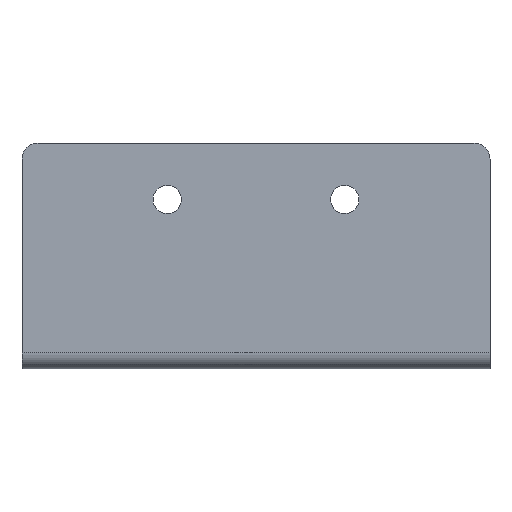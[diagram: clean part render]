
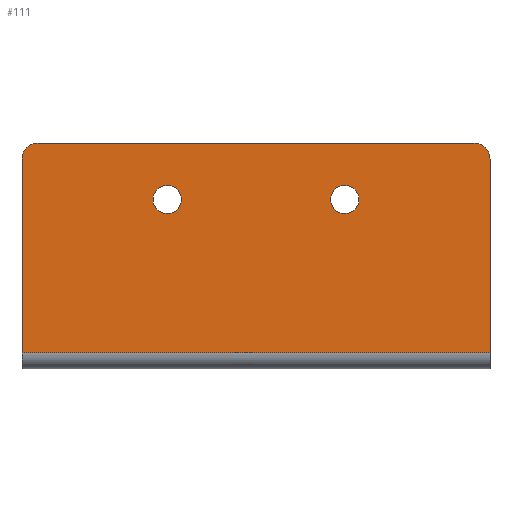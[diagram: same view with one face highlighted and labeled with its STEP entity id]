
A CAD part, left-side view. The second image highlights one B-rep face of the part: STEP entity #111.
In plain terms, the highlighted planar face has unit normal (-1, 0, 0).
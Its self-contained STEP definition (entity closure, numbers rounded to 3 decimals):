
#111=ADVANCED_FACE('',(#229,#230,#231),#232,.F.);
#229=FACE_OUTER_BOUND('',#352,.T.);
#230=FACE_BOUND('',#353,.T.);
#231=FACE_BOUND('',#354,.T.);
#232=PLANE('',#355);
#352=EDGE_LOOP('',(#616,#617,#618,#619,#620,#621,#622,#623));
#353=EDGE_LOOP('',(#624,#625));
#354=EDGE_LOOP('',(#626,#627));
#355=AXIS2_PLACEMENT_3D('',#628,#629,#630);
#616=ORIENTED_EDGE('',*,*,#853,.F.);
#617=ORIENTED_EDGE('',*,*,#825,.F.);
#618=ORIENTED_EDGE('',*,*,#749,.F.);
#619=ORIENTED_EDGE('',*,*,#854,.F.);
#620=ORIENTED_EDGE('',*,*,#855,.F.);
#621=ORIENTED_EDGE('',*,*,#856,.F.);
#622=ORIENTED_EDGE('',*,*,#754,.F.);
#623=ORIENTED_EDGE('',*,*,#857,.F.);
#624=ORIENTED_EDGE('',*,*,#776,.T.);
#625=ORIENTED_EDGE('',*,*,#830,.T.);
#626=ORIENTED_EDGE('',*,*,#821,.T.);
#627=ORIENTED_EDGE('',*,*,#812,.T.);
#628=CARTESIAN_POINT('',(73.943,145.661,29.0));
#629=DIRECTION('',(1.0,0.,0.));
#630=DIRECTION('',(0.,-1.0,0.));
#749=EDGE_CURVE('',#893,#895,#896,.T.);
#754=EDGE_CURVE('',#900,#903,#904,.T.);
#776=EDGE_CURVE('',#942,#940,#943,.T.);
#812=EDGE_CURVE('',#997,#999,#1001,.T.);
#821=EDGE_CURVE('',#999,#997,#1012,.T.);
#825=EDGE_CURVE('',#895,#1017,#1018,.T.);
#830=EDGE_CURVE('',#940,#942,#1024,.T.);
#853=EDGE_CURVE('',#1017,#1055,#1056,.T.);
#854=EDGE_CURVE('',#1057,#893,#1058,.T.);
#855=EDGE_CURVE('',#1059,#1057,#1060,.T.);
#856=EDGE_CURVE('',#903,#1059,#1061,.T.);
#857=EDGE_CURVE('',#1055,#900,#1062,.T.);
#893=VERTEX_POINT('',#1103);
#895=VERTEX_POINT('',#1105);
#896=LINE('',#1106,#1107);
#900=VERTEX_POINT('',#1111);
#903=VERTEX_POINT('',#1115);
#904=LINE('',#1116,#1117);
#940=VERTEX_POINT('',#1160);
#942=VERTEX_POINT('',#1163);
#943=CIRCLE('',#1164,1.75);
#997=VERTEX_POINT('',#1233);
#999=VERTEX_POINT('',#1236);
#1001=CIRCLE('',#1239,1.75);
#1012=CIRCLE('',#1253,1.75);
#1017=VERTEX_POINT('',#1259);
#1018=LINE('',#1260,#1261);
#1024=CIRCLE('',#1269,1.75);
#1055=VERTEX_POINT('',#1309);
#1056=CIRCLE('',#1310,2.);
#1057=VERTEX_POINT('',#1311);
#1058=LINE('',#1312,#1313);
#1059=VERTEX_POINT('',#1314);
#1060=CIRCLE('',#1315,2.);
#1061=CIRCLE('',#1316,2.);
#1062=CIRCLE('',#1317,2.);
#1103=CARTESIAN_POINT('',(73.943,116.661,17.0));
#1105=CARTESIAN_POINT('',(73.943,174.661,17.0));
#1106=CARTESIAN_POINT('',(73.943,145.661,17.0));
#1107=VECTOR('',#1360,1.0);
#1111=CARTESIAN_POINT('',(73.943,172.661,43.0));
#1115=CARTESIAN_POINT('',(73.943,118.661,43.0));
#1116=CARTESIAN_POINT('',(73.943,145.661,43.0));
#1117=VECTOR('',#1365,1.0);
#1160=CARTESIAN_POINT('',(73.943,158.411,36.0));
#1163=CARTESIAN_POINT('',(73.943,154.911,36.0));
#1164=AXIS2_PLACEMENT_3D('',#1404,#1405,#1406);
#1233=CARTESIAN_POINT('',(73.943,136.411,36.0));
#1236=CARTESIAN_POINT('',(73.943,132.911,36.0));
#1239=AXIS2_PLACEMENT_3D('',#1454,#1455,#1456);
#1253=AXIS2_PLACEMENT_3D('',#1466,#1467,#1468);
#1259=CARTESIAN_POINT('',(73.943,174.661,41.0));
#1260=CARTESIAN_POINT('',(73.943,174.661,29.0));
#1261=VECTOR('',#1473,1.0);
#1269=AXIS2_PLACEMENT_3D('',#1479,#1480,#1481);
#1309=CARTESIAN_POINT('',(73.943,174.075,42.414));
#1310=AXIS2_PLACEMENT_3D('',#1512,#1513,#1514);
#1311=CARTESIAN_POINT('',(73.943,116.661,41.0));
#1312=CARTESIAN_POINT('',(73.943,116.661,29.0));
#1313=VECTOR('',#1515,1.0);
#1314=CARTESIAN_POINT('',(73.943,117.247,42.414));
#1315=AXIS2_PLACEMENT_3D('',#1516,#1517,#1518);
#1316=AXIS2_PLACEMENT_3D('',#1519,#1520,#1521);
#1317=AXIS2_PLACEMENT_3D('',#1522,#1523,#1524);
#1360=DIRECTION('',(0.,1.0,0.));
#1365=DIRECTION('',(0.,-1.0,0.));
#1404=CARTESIAN_POINT('',(73.943,156.661,36.0));
#1405=DIRECTION('',(1.0,0.,0.));
#1406=DIRECTION('',(0.,1.0,0.));
#1454=CARTESIAN_POINT('',(73.943,134.661,36.0));
#1455=DIRECTION('',(1.0,0.,0.));
#1456=DIRECTION('',(0.,1.0,0.));
#1466=CARTESIAN_POINT('',(73.943,134.661,36.0));
#1467=DIRECTION('',(1.0,0.,0.));
#1468=DIRECTION('',(0.,1.0,0.));
#1473=DIRECTION('',(0.,0.0,1.0));
#1479=CARTESIAN_POINT('',(73.943,156.661,36.0));
#1480=DIRECTION('',(1.0,0.,0.));
#1481=DIRECTION('',(0.,1.0,0.));
#1512=CARTESIAN_POINT('',(73.943,172.661,41.0));
#1513=DIRECTION('',(1.0,0.,0.));
#1514=DIRECTION('',(0.0,0.707,0.707));
#1515=DIRECTION('',(0.,0.0,-1.0));
#1516=CARTESIAN_POINT('',(73.943,118.661,41.0));
#1517=DIRECTION('',(1.0,0.,0.));
#1518=DIRECTION('',(0.,-0.707,0.707));
#1519=CARTESIAN_POINT('',(73.943,118.661,41.0));
#1520=DIRECTION('',(1.0,0.,0.));
#1521=DIRECTION('',(0.,-0.707,0.707));
#1522=CARTESIAN_POINT('',(73.943,172.661,41.0));
#1523=DIRECTION('',(1.0,0.,0.));
#1524=DIRECTION('',(0.0,0.707,0.707));
